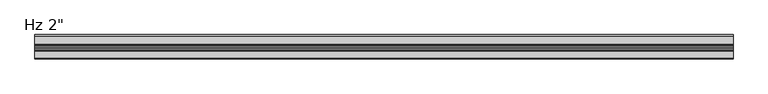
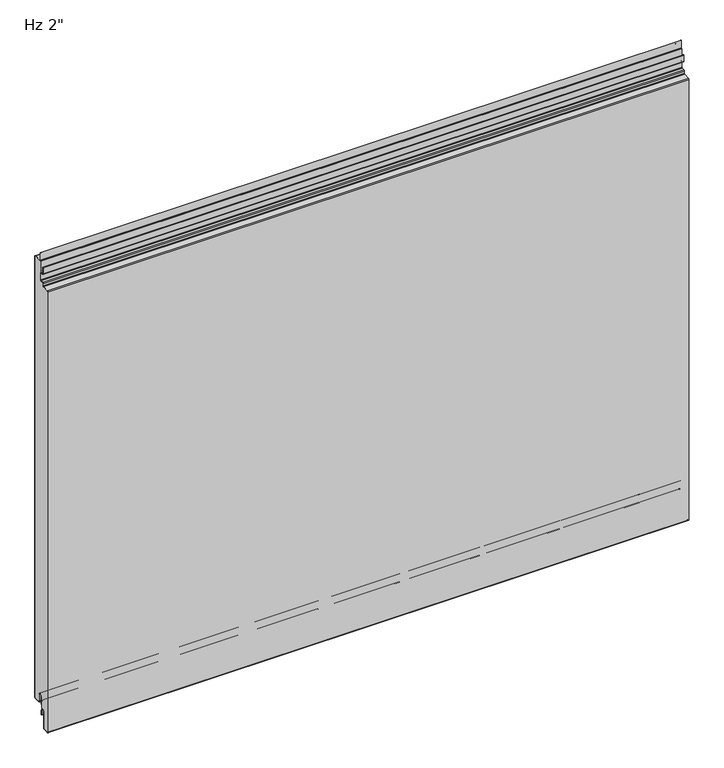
"""IFC4 building model written with IfcOpenShell, lengths in millimetres: plate geometry."""

import ifcopenshell
import ifcopenshell.guid

model = None  # the IFC model being written
_history = None  # IfcOwnerHistory: only IFC2X3 demands one
_inside = {}  # id of a spatial element -> (the spatial element, [elements in it])
_under = {}  # id of a project, library or spatial element -> (it, [spatial elements below it])
_declared = {}  # id of a project -> (the project, [libraries it declares])
_typed = {}  # id of a type object -> (the type object, [elements of that type])
_made_of = {}  # id of a material, layer set ... -> (it, [elements and type objects made of it])


def new_model(schema):
    """Start an empty IFC model of exactly this schema.

    Asked for "IFC4X3", IfcOpenShell would pick the latest addendum, in which some entities
    have other attributes; the version numbers below select the first issue.
    IFC2X3 requires an IfcOwnerHistory on every rooted entity: one is made here for all.
    """
    global model, _history
    if schema == "IFC4X3":
        model = ifcopenshell.file(schema_version=(4, 3, 0, 0))
    else:
        model = ifcopenshell.file(schema=schema)
    _inside.clear()
    _under.clear()
    _declared.clear()
    _typed.clear()
    _made_of.clear()
    _history = None
    if model.schema == "IFC2X3":
        org = make("IfcOrganization", Name="unknown")
        user = make(
            "IfcPersonAndOrganization",
            ThePerson=make("IfcPerson", FamilyName="unknown"),
            TheOrganization=org,
        )
        app = make(
            "IfcApplication",
            ApplicationDeveloper=org,
            Version="unknown",
            ApplicationFullName="unknown",
            ApplicationIdentifier="unknown",
        )
        _history = make(
            "IfcOwnerHistory",
            OwningUser=user,
            OwningApplication=app,
            ChangeAction="ADDED",
            CreationDate=0,
        )
    return model


def make(cls, **values):
    """One entity of the class cls with the attributes given. An attribute that is None is left unset."""
    return model.create_entity(
        cls, **{name: value for name, value in values.items() if value is not None}
    )


def rooted(cls, **values):
    """An entity with a GlobalId (a new one), such as an element, a storey or a relation."""
    return make(cls, GlobalId=ifcopenshell.guid.new(), OwnerHistory=_history, **values)


def si_unit(unit_type, name, prefix=None):
    """IfcSIUnit, for example si_unit("LENGTHUNIT", "METRE", prefix="MILLI")."""
    return make("IfcSIUnit", UnitType=unit_type, Prefix=prefix, Name=name)


def assignment(units):
    """IfcUnitAssignment: the units of a project."""
    return None if units is None else make("IfcUnitAssignment", Units=units)


def point(xyz):
    """IfcCartesianPoint."""
    return None if xyz is None else make("IfcCartesianPoint", Coordinates=xyz)


def direction(xyz):
    """IfcDirection."""
    return None if xyz is None else make("IfcDirection", DirectionRatios=xyz)


def frame(location, z_axis=None, x_axis=None):
    """IfcAxis2Placement3D, a coordinate frame: its origin and axes. An axis left out is left unset."""
    return make(
        "IfcAxis2Placement3D",
        Location=point(location),
        Axis=direction(z_axis),
        RefDirection=direction(x_axis),
    )


def frame_2d(location, x_axis=None):
    """IfcAxis2Placement2D, a coordinate frame in the plane: its origin and x axis."""
    return make(
        "IfcAxis2Placement2D", Location=point(location), RefDirection=direction(x_axis)
    )


def origin():
    """The frame at (0, 0, 0) with its axes left unset."""
    return frame((0.0, 0.0, 0.0))


def place(relative_to, where):
    """IfcLocalPlacement: puts the frame where relative to a parent placement (None: the world)."""
    return make(
        "IfcLocalPlacement", PlacementRelTo=relative_to, RelativePlacement=where
    )


def context(
    kind, dimensions, precision=None, world=None, true_north=None, identifier=None
):
    """IfcGeometricRepresentationContext, for example the 3D "Model" context."""
    return make(
        "IfcGeometricRepresentationContext",
        ContextIdentifier=identifier,
        ContextType=kind,
        CoordinateSpaceDimension=dimensions,
        Precision=precision,
        WorldCoordinateSystem=world,
        TrueNorth=true_north,
    )


def project(units=None, contexts=None):
    """IfcProject with its units and contexts."""
    return rooted(
        "IfcProject",
        Name="project",
        RepresentationContexts=contexts,
        UnitsInContext=assignment(units),
    )


def spatial(cls, under=None, at=None, **own):
    """A site, building, storey or space (cls), placed at a placement, below another one or the project."""
    s = rooted(cls, ObjectPlacement=at, **own)
    if under is not None:
        _under.setdefault(under.id(), (under, []))[1].append(s)
    return s


def polyline(points):
    """IfcPolyline through the points."""
    return make("IfcPolyline", Points=[point(p) for p in points])


def circle_curve(where, radius):
    """IfcCircle in the frame where."""
    return make("IfcCircle", Position=where, Radius=radius)


def ellipse_curve(where, semi_axis1, semi_axis2):
    """IfcEllipse in the frame where."""
    return make(
        "IfcEllipse", Position=where, SemiAxis1=semi_axis1, SemiAxis2=semi_axis2
    )


def trimmed(basis, trim1, trim2, sense, master):
    """IfcTrimmedCurve: the piece of a basis curve between two trims."""
    return make(
        "IfcTrimmedCurve",
        BasisCurve=basis,
        Trim1=trim1,
        Trim2=trim2,
        SenseAgreement=sense,
        MasterRepresentation=master,
    )


def segment(curve, same_sense, transition):
    """IfcCompositeCurveSegment."""
    return make(
        "IfcCompositeCurveSegment",
        Transition=transition,
        SameSense=same_sense,
        ParentCurve=curve,
    )


def composite_curve(segments, self_intersect=None):
    """IfcCompositeCurve: segments joined end to end."""
    return make("IfcCompositeCurve", Segments=segments, SelfIntersect=self_intersect)


def outline(outer, holes=None, kind="AREA"):
    """IfcArbitraryClosedProfileDef: a profile drawn as a closed curve; with holes, ...WithVoids."""
    if holes is None:
        return make("IfcArbitraryClosedProfileDef", ProfileType=kind, OuterCurve=outer)
    return make(
        "IfcArbitraryProfileDefWithVoids",
        ProfileType=kind,
        OuterCurve=outer,
        InnerCurves=holes,
    )


def extrude(swept, where, along, depth):
    """IfcExtrudedAreaSolid: the profile swept, set in the frame where, extruded along a direction by depth."""
    return make(
        "IfcExtrudedAreaSolid",
        SweptArea=swept,
        Position=where,
        ExtrudedDirection=direction(along),
        Depth=depth,
    )


def shape(context_of_items, identifier, shape_type, items):
    """IfcShapeRepresentation: the items that make up one representation, for example the "Body"."""
    return make(
        "IfcShapeRepresentation",
        ContextOfItems=context_of_items,
        RepresentationIdentifier=identifier,
        RepresentationType=shape_type,
        Items=items,
    )


def source(mapping_origin, context_of_items, identifier, shape_type, items):
    """IfcRepresentationMap: a shape defined once, which mapped items show again and again."""
    return make(
        "IfcRepresentationMap",
        MappingOrigin=mapping_origin,
        MappedRepresentation=shape(context_of_items, identifier, shape_type, items),
    )


def transform(
    local_origin,
    x_axis=None,
    y_axis=None,
    z_axis=None,
    scale=None,
    scale2=None,
    scale3=None,
    uniform=True,
):
    """IfcCartesianTransformationOperator3D, or its non-uniform kind. x_axis, y_axis, z_axis: its Axis1, 2, 3."""
    if uniform:
        return make(
            "IfcCartesianTransformationOperator3D",
            Axis1=direction(x_axis),
            Axis2=direction(y_axis),
            LocalOrigin=point(local_origin),
            Scale=scale,
            Axis3=direction(z_axis),
        )
    return make(
        "IfcCartesianTransformationOperator3DnonUniform",
        Axis1=direction(x_axis),
        Axis2=direction(y_axis),
        LocalOrigin=point(local_origin),
        Scale=scale,
        Axis3=direction(z_axis),
        Scale2=scale2,
        Scale3=scale3,
    )


def mapped(mapping_source, mapping_target):
    """IfcMappedItem: shows the shape of a source again, moved by a transform."""
    return make(
        "IfcMappedItem", MappingSource=mapping_source, MappingTarget=mapping_target
    )


def made_of(thing, what):
    """Note that an element or type object is made of a material, layer set ...; save() writes the relation."""
    if what is not None:
        _made_of.setdefault(what.id(), (what, []))[1].append(thing)
    return thing


def element(
    cls,
    number,
    at=None,
    inside=None,
    cuts=None,
    type_object=None,
    material=None,
    context=None,
    identifier="Body",
    shape_type=None,
    held_by="IfcProductDefinitionShape",
    body=None,
    shapes=None,
    **own,
):
    """One element of the class cls, such as IfcWall. Its Tag is "e" and its number.

    at: its placement. inside: the storey or other place that contains it. cuts: it is an
    opening in that element (IfcRelVoidsElement). A single representation is given by context,
    identifier, shape_type and body (its items); several are given by shapes. held_by: the class
    of the entity that holds the representations. save() writes the other relations.
    """
    e = rooted(cls, Tag="e%d" % number, ObjectPlacement=at, **own)
    if body is not None:
        shapes = [shape(context, identifier, shape_type, body)]
    if shapes is not None:
        e.Representation = make(held_by, Representations=shapes)
    if inside is not None:
        _inside.setdefault(inside.id(), (inside, []))[1].append(e)
    if cuts is not None:
        rooted(
            "IfcRelVoidsElement", RelatingBuildingElement=cuts, RelatedOpeningElement=e
        )
    if type_object is not None:
        _typed.setdefault(type_object.id(), (type_object, []))[1].append(e)
    return made_of(e, material)


def aggregate(whole, parts):
    """IfcRelAggregates: a whole, such as a stair, and the parts it consists of."""
    return rooted("IfcRelAggregates", RelatingObject=whole, RelatedObjects=parts)


def save(model, path):
    """Write the relations noted so far, then the file.

    IfcRelAggregates (storeys below a building ...), IfcRelContainedInSpatialStructure (elements
    in a storey), IfcRelDefinesByType, IfcRelAssociatesMaterial and IfcRelDeclares: one each for
    every whole, place, type object, material and project.
    """
    for whole, parts in _under.values():
        aggregate(whole, parts)
    for where, things in _inside.values():
        rooted(
            "IfcRelContainedInSpatialStructure",
            RelatedElements=things,
            RelatingStructure=where,
        )
    for kind, things in _typed.values():
        rooted("IfcRelDefinesByType", RelatedObjects=things, RelatingType=kind)
    for what, things in _made_of.values():
        rooted("IfcRelAssociatesMaterial", RelatedObjects=things, RelatingMaterial=what)
    for by, libraries in _declared.values():
        rooted("IfcRelDeclares", RelatingContext=by, RelatedDefinitions=libraries)
    model.write(path)


def plane_surface(at):
    """IfcPlane: the flat surface through the origin of the frame at, square to its z axis."""
    return make("IfcPlane", Position=at)


def cylinder_surface(at, radius):
    """IfcCylindricalSurface: all points at the distance radius from the z axis of the frame at."""
    return make("IfcCylindricalSurface", Position=at, Radius=radius)


def revolved_surface(curve, axis_point, axis_direction):
    """IfcSurfaceOfRevolution: the curve turned about the line through axis_point along axis_direction."""
    return make(
        "IfcSurfaceOfRevolution",
        SweptCurve=make("IfcArbitraryOpenProfileDef", ProfileType="CURVE", Curve=curve),
        AxisPosition=make("IfcAxis1Placement", Location=point(axis_point), Axis=direction(axis_direction)),
    )


def extruded_surface(curve, direction_of_extrusion, depth):
    """IfcSurfaceOfLinearExtrusion: the curve pushed along a direction by depth."""
    return make(
        "IfcSurfaceOfLinearExtrusion",
        SweptCurve=make("IfcArbitraryOpenProfileDef", ProfileType="CURVE", Curve=curve),
        ExtrudedDirection=direction(direction_of_extrusion),
        Depth=depth,
    )


def advanced_brep(points, edges, surfaces, faces):
    """IfcAdvancedBrep: a solid bounded by faces that lie on surfaces and meet in shared edges.

    An edge is (start, end): straight between two places in points (the first is 0);
    or (start, end, curve); or (start, end, curve, False) where it runs against its curve.
    A face is (place in surfaces, loops), or (place, loops, False) where it looks against
    its surface's normal. A loop lists edges by number (the first is 1), with a minus sign
    where the edge is run from its end to its start. The first loop is the outer one.
    """
    corners = [point(p) for p in points]
    vertices = [make("IfcVertexPoint", VertexGeometry=c) for c in corners]
    made = []
    for start, end, *more in edges:
        made.append(
            make(
                "IfcEdgeCurve",
                EdgeStart=vertices[start],
                EdgeEnd=vertices[end],
                EdgeGeometry=more[0] if more else make("IfcPolyline", Points=[corners[start], corners[end]]),
                SameSense=more[1] if len(more) > 1 else True,
            )
        )
    hull = []
    for where, loops, *sense in faces:
        bounds = []
        for j, loop in enumerate(loops):
            ring = [make("IfcOrientedEdge", EdgeElement=made[abs(k) - 1], Orientation=k > 0) for k in loop]
            bounds.append(
                make(
                    "IfcFaceOuterBound" if j == 0 else "IfcFaceBound",
                    Bound=make("IfcEdgeLoop", EdgeList=ring),
                    Orientation=True,
                )
            )
        hull.append(make("IfcAdvancedFace", Bounds=bounds, FaceSurface=surfaces[where], SameSense=sense[0] if sense else True))
    return make("IfcAdvancedBrep", Outer=make("IfcClosedShell", CfsFaces=hull))


def plate_dd8bc8b6(model_context):
    return source(origin(), model_context, "Body", "SolidModel", [
        extrude(outline(composite_curve([segment(polyline([(-22.8125, 1021.7620957), (-22.8125, 1065.00625), (-2.38125, 1065.00625)]), True, "CONTINUOUS"), segment(trimmed(circle_curve(frame_2d((-2.38125, 1063.625)), 1.38125), [point((-2.38125, 1065.00625))], [point((-1.0, 1063.625))], False, "CARTESIAN"), True, "CONTINUOUS"), segment(polyline([(-1.0, 1063.625), (-1.0, 3.175)]), True, "CONTINUOUS"), segment(trimmed(circle_curve(frame_2d((-2.38125, 3.175)), 1.38125), [point((-1.0, 3.175))], [point((-2.38125, 1.79375))], False, "CARTESIAN"), True, "CONTINUOUS"), segment(polyline([(-2.38125, 1.79375), (-15.08125, 1.79375)]), True, "CONTINUOUS"), segment(trimmed(circle_curve(frame_2d((-15.08125, 3.175)), 1.38125), [point((-15.08125, 1.79375))], [point((-16.4625, 3.175))], False, "CARTESIAN"), True, "CONTINUOUS"), segment(polyline([(-16.4625, 3.175), (-16.4625, 19.05)]), True, "CONTINUOUS"), segment(trimmed(circle_curve(frame_2d((-21.43125, 19.05)), 4.96875), [point((-16.4625, 19.05))], [point((-26.4, 19.05))], True, "CARTESIAN"), True, "CONTINUOUS"), segment(polyline([(-26.4, 19.05), (-26.4, -6.9375), (-30.95625, -6.9375)]), True, "CONTINUOUS"), segment(trimmed(circle_curve(frame_2d((-30.95625, -11.90625)), 4.96875), [point((-30.95625, -6.9375))], [point((-35.925, -11.90625))], True, "CARTESIAN"), True, "CONTINUOUS"), segment(polyline([(-35.925, -11.90625), (-35.925, -50.0895546)]), True, "CONTINUOUS"), segment(trimmed(circle_curve(frame_2d((-37.30625, -50.0895546)), 1.38125), [point((-35.925, -50.0895546))], [point((-37.233961, -51.4689117))], False, "CARTESIAN"), True, "CONTINUOUS"), segment(polyline([(-37.233961, -51.4689117), (-48.346461, -52.0512931)]), True, "CONTINUOUS"), segment(trimmed(circle_curve(frame_2d((-48.41875, -50.6719361)), 1.38125), [point((-48.346461, -52.0512931))], [point((-49.8, -50.6719361))], False, "CARTESIAN"), True, "CONTINUOUS"), segment(polyline([(-49.8, -50.6719361), (-49.8, 1008.1697607)]), True, "CONTINUOUS"), segment(trimmed(circle_curve(frame_2d((-48.41875, 1008.1697607)), 1.38125), [point((-49.8, 1008.1697607))], [point((-48.491039, 1009.5491177))], False, "CARTESIAN"), True, "CONTINUOUS"), segment(polyline([(-48.491039, 1009.5491177), (-34.7895807, 1010.2671807)]), True, "CONTINUOUS"), segment(trimmed(circle_curve(frame_2d((-34.925, 1012.8511347)), 2.5875), [point((-34.7895807, 1010.2671807))], [point((-32.3375, 1012.8511347))], True, "CARTESIAN"), True, "CONTINUOUS"), segment(polyline([(-32.3375, 1012.8511347), (-32.3375, 1017.4967085)]), True, "CONTINUOUS"), segment(trimmed(circle_curve(frame_2d((-30.95625, 1017.4967085)), 1.38125), [point((-32.3375, 1017.4967085))], [point((-31.028539, 1018.8760655))], False, "CARTESIAN"), True, "CONTINUOUS"), segment(polyline([(-31.028539, 1018.8760655), (-25.2645807, 1019.1781418)]), True, "CONTINUOUS"), segment(trimmed(circle_curve(frame_2d((-25.4, 1021.7620957)), 2.5875), [point((-25.2645807, 1019.1781418))], [point((-22.8125, 1021.7620957))], True, "CARTESIAN"), True, "CONTINUOUS")], self_intersect=False)), frame((-730.0, 0.0, 0.0), z_axis=(1.0, 0.0, 0.0), x_axis=(0.0, 1.0, 0.0)), (0.0, 0.0, 1.0), 1460.0),
        extrude(outline(composite_curve([segment(polyline([(-25.4, 0.79375), (-26.4, 0.79375), (-26.4, 19.05)]), True, "CONTINUOUS"), segment(trimmed(circle_curve(frame_2d((-21.43125, 19.05)), 4.96875), [point((-26.4, 19.05))], [point((-16.4625, 19.05))], False, "CARTESIAN"), True, "CONTINUOUS"), segment(polyline([(-16.4625, 19.05), (-16.4625, 3.175)]), True, "CONTINUOUS"), segment(trimmed(circle_curve(frame_2d((-15.08125, 3.175)), 1.38125), [point((-16.4625, 3.175))], [point((-15.08125, 1.79375))], True, "CARTESIAN"), True, "CONTINUOUS"), segment(polyline([(-15.08125, 1.79375), (-2.38125, 1.79375)]), True, "CONTINUOUS"), segment(trimmed(circle_curve(frame_2d((-2.38125, 3.175)), 1.38125), [point((-2.38125, 1.79375))], [point((-1.0, 3.175))], True, "CARTESIAN"), True, "CONTINUOUS"), segment(polyline([(-1.0, 3.175), (-1.0, 1063.625)]), True, "CONTINUOUS"), segment(trimmed(circle_curve(frame_2d((-2.38125, 1063.625)), 1.38125), [point((-1.0, 1063.625))], [point((-2.38125, 1065.00625))], True, "CARTESIAN"), True, "CONTINUOUS"), segment(polyline([(-2.38125, 1065.00625), (-19.446875, 1065.00625)]), True, "CONTINUOUS"), segment(trimmed(circle_curve(frame_2d((-19.446875, 1067.59375)), 2.5875), [point((-19.446875, 1065.00625))], [point((-22.034375, 1067.59375))], False, "CARTESIAN"), True, "CONTINUOUS"), segment(polyline([(-22.034375, 1067.59375), (-22.034375, 1085.05625), (-21.034375, 1085.05625), (-21.034375, 1067.59375)]), True, "CONTINUOUS"), segment(trimmed(circle_curve(frame_2d((-19.446875, 1067.59375)), 1.5875), [point((-21.034375, 1067.59375))], [point((-19.446875, 1066.00625))], True, "CARTESIAN"), True, "CONTINUOUS"), segment(polyline([(-19.446875, 1066.00625), (-2.38125, 1066.00625)]), True, "CONTINUOUS"), segment(trimmed(circle_curve(frame_2d((-2.38125, 1063.625)), 2.38125), [point((-2.38125, 1066.00625))], [point((0.0, 1063.625))], False, "CARTESIAN"), True, "CONTINUOUS"), segment(polyline([(0.0, 1063.625), (0.0, 3.175)]), True, "CONTINUOUS"), segment(trimmed(circle_curve(frame_2d((-2.38125, 3.175)), 2.38125), [point((0.0, 3.175))], [point((-2.38125, 0.79375))], False, "CARTESIAN"), True, "CONTINUOUS"), segment(polyline([(-2.38125, 0.79375), (-15.08125, 0.79375)]), True, "CONTINUOUS"), segment(trimmed(circle_curve(frame_2d((-15.08125, 3.175)), 2.38125), [point((-15.08125, 0.79375))], [point((-17.4625, 3.175))], False, "CARTESIAN"), True, "CONTINUOUS"), segment(polyline([(-17.4625, 3.175), (-17.4625, 19.05)]), True, "CONTINUOUS"), segment(trimmed(circle_curve(frame_2d((-21.43125, 19.05)), 3.96875), [point((-17.4625, 19.05))], [point((-25.4, 19.05))], True, "CARTESIAN"), True, "CONTINUOUS"), segment(polyline([(-25.4, 19.05), (-25.4, 0.79375)]), True, "CONTINUOUS")], self_intersect=False)), frame((-730.0, 0.0, 0.0), z_axis=(1.0, 0.0, 0.0), x_axis=(0.0, 1.0, 0.0)), (0.0, 0.0, 1.0), 1460.0),
        advanced_brep(
        [(-730.0, -25.4, -23.2314549), (-730.0, -26.9875, -23.2314549), (-730.0, -26.9875, -11.9205174), (-730.0, -34.925, -11.9205174), (-730.0, -34.925, -50.1038221), (-730.0, -37.181625, -52.4818086), (-730.0, -48.294125, -53.0641901), (-730.0, -50.8, -50.6862035), (-730.0, -50.8, 1008.1697607), (-730.0, -48.543375, 1010.5477473), (-730.0, -34.8419167, 1011.2658103), (-730.0, -33.3375, 1012.8511347), (-730.0, -33.3375, 1017.4824411), (-730.0, -31.080875, 1019.8604276), (-730.0, -25.3169167, 1020.1625039), (-730.0, -23.8125, 1021.7478283), (-730.0, -23.8125, 1036.6232326), (-730.0, -25.4, 1038.2107326), (-730.0, -29.5671875, 1038.2107326), (-730.0, -31.9484375, 1040.5919826), (-730.0, -31.9484375, 1055.0836032), (-730.0, -30.1546875, 1055.0836032), (-730.0, -30.1546875, 1045.3544826), (-730.0, -30.9484375, 1045.3544826), (-730.0, -30.9484375, 1040.5919826), (-730.0, -29.5671875, 1039.2107326), (-730.0, -25.4, 1039.2107326), (-730.0, -22.8125, 1036.6232326), (-730.0, -22.8125, 1021.7478283), (-730.0, -25.2645807, 1019.1638744), (-730.0, -31.028539, 1018.8617981), (-730.0, -32.3375, 1017.4824411), (-730.0, -32.3375, 1012.8511347), (-730.0, -34.7895807, 1010.2671807), (-730.0, -48.491039, 1009.5491177), (-730.0, -49.8, 1008.1697607), (-730.0, -49.8, -50.6862035), (-730.0, -48.346461, -52.0655606), (-730.0, -37.233961, -51.4831791), (-730.0, -35.925, -50.1038221), (-730.0, -35.925, -11.9205174), (-730.0, -25.9875, -11.9205174), (-730.0, -26.19375, -13.5080174), (-730.0, -25.4, -13.5080174), (730.0, -25.4, -23.2314549), (730.0, -25.4, -13.5080174), (730.0, -26.19375, -13.5080174), (730.0, -25.9875, -11.9205174), (730.0, -35.925, -11.9205174), (730.0, -35.925, -50.1038221), (730.0, -37.233961, -51.4831791), (730.0, -48.346461, -52.0655606), (730.0, -49.8, -50.6862035), (730.0, -49.8, 1008.1697607), (730.0, -48.491039, 1009.5491177), (730.0, -34.7895807, 1010.2671807), (730.0, -32.3375, 1012.8511347), (730.0, -32.3375, 1017.4824411), (730.0, -31.028539, 1018.8617981), (730.0, -25.2645807, 1019.1638744), (730.0, -22.8125, 1021.7478283), (730.0, -22.8125, 1036.6232326), (730.0, -25.4, 1039.2107326), (730.0, -29.5671875, 1039.2107326), (730.0, -30.9484375, 1040.5919826), (730.0, -30.9484375, 1045.3544826), (730.0, -30.1546875, 1045.3544826), (730.0, -30.1546875, 1055.0836032), (730.0, -31.9484375, 1055.0836032), (730.0, -31.9484375, 1040.5919826), (730.0, -29.5671875, 1038.2107326), (730.0, -25.4, 1038.2107326), (730.0, -23.8125, 1036.6232326), (730.0, -23.8125, 1021.7478283), (730.0, -25.3169167, 1020.1625039), (730.0, -31.080875, 1019.8604276), (730.0, -33.3375, 1017.4824411), (730.0, -33.3375, 1012.8511347), (730.0, -34.8419167, 1011.2658103), (730.0, -48.543375, 1010.5477473), (730.0, -50.8, 1008.1697607), (730.0, -50.8, -50.6862035), (730.0, -48.294125, -53.0641901), (730.0, -37.181625, -52.4818086), (730.0, -34.925, -50.1038221), (730.0, -34.925, -11.9205174), (730.0, -26.9875, -11.9205174), (730.0, -26.9875, -23.2314549)],
        [
            (0, 1, circle_curve(frame((-730.0, -26.19375, -23.2314549), z_axis=(-1.0, 0.0, 0.0), x_axis=(0.0, 0.0, -1.0)), 0.79375)),
            (1, 2),
            (2, 3, circle_curve(frame((-730.0, -30.95625, -11.9205174), z_axis=(1.0, 0.0, 0.0), x_axis=(0.0, 0.0, -1.0)), 3.96875)),
            (3, 4),
            (4, 5, circle_curve(frame((-730.0, -37.30625, -50.1038221), z_axis=(-1.0, 0.0, 0.0), x_axis=(0.0, 0.0, -1.0)), 2.38125)),
            (5, 6),
            (6, 7, circle_curve(frame((-730.0, -48.41875, -50.6862035), z_axis=(-1.0, 0.0, 0.0), x_axis=(0.0, 0.0, -1.0)), 2.38125)),
            (7, 8),
            (8, 9, circle_curve(frame((-730.0, -48.41875, 1008.1697607), z_axis=(-1.0, 0.0, 0.0), x_axis=(0.0, 0.0, -1.0)), 2.38125)),
            (9, 10),
            (10, 11, circle_curve(frame((-730.0, -34.925, 1012.8511347), z_axis=(1.0, 0.0, 0.0), x_axis=(0.0, 0.0, -1.0)), 1.5875)),
            (11, 12),
            (12, 13, circle_curve(frame((-730.0, -30.95625, 1017.4824411), z_axis=(-1.0, 0.0, 0.0), x_axis=(0.0, 0.0, -1.0)), 2.38125)),
            (13, 14),
            (14, 15, circle_curve(frame((-730.0, -25.4, 1021.7478283), z_axis=(1.0, 0.0, 0.0), x_axis=(0.0, 0.0, -1.0)), 1.5875)),
            (15, 16),
            (16, 17, circle_curve(frame((-730.0, -25.4, 1036.6232326), z_axis=(1.0, 0.0, 0.0), x_axis=(0.0, 0.0, -1.0)), 1.5875)),
            (17, 18),
            (18, 19, circle_curve(frame((-730.0, -29.5671875, 1040.5919826), z_axis=(-1.0, 0.0, 0.0), x_axis=(0.0, 0.0, -1.0)), 2.38125)),
            (19, 20),
            (20, 21, ellipse_curve(frame((-730.0, -31.0515625, 1055.0836032), z_axis=(-1.0, 0.0, 0.0), x_axis=(0.0, 1.0, 0.0)), 0.896875, 0.7852275)),
            (21, 22),
            (22, 23),
            (23, 24),
            (24, 25, circle_curve(frame((-730.0, -29.5671875, 1040.5919826), z_axis=(1.0, 0.0, 0.0), x_axis=(0.0, 0.0, -1.0)), 1.38125)),
            (25, 26),
            (26, 27, circle_curve(frame((-730.0, -25.4, 1036.6232326), z_axis=(-1.0, 0.0, 0.0), x_axis=(0.0, 0.0, -1.0)), 2.5875)),
            (27, 28),
            (28, 29, circle_curve(frame((-730.0, -25.4, 1021.7478283), z_axis=(-1.0, 0.0, 0.0), x_axis=(0.0, 0.0, -1.0)), 2.5875)),
            (29, 30),
            (30, 31, circle_curve(frame((-730.0, -30.95625, 1017.4824411), z_axis=(1.0, 0.0, 0.0), x_axis=(0.0, 0.0, -1.0)), 1.38125)),
            (31, 32),
            (32, 33, circle_curve(frame((-730.0, -34.925, 1012.8511347), z_axis=(-1.0, 0.0, 0.0), x_axis=(0.0, 0.0, -1.0)), 2.5875)),
            (33, 34),
            (34, 35, circle_curve(frame((-730.0, -48.41875, 1008.1697607), z_axis=(1.0, 0.0, 0.0), x_axis=(0.0, 0.0, -1.0)), 1.38125)),
            (35, 36),
            (36, 37, circle_curve(frame((-730.0, -48.41875, -50.6862035), z_axis=(1.0, 0.0, 0.0), x_axis=(0.0, 0.0, -1.0)), 1.38125)),
            (37, 38),
            (38, 39, circle_curve(frame((-730.0, -37.30625, -50.1038221), z_axis=(1.0, 0.0, 0.0), x_axis=(0.0, 0.0, -1.0)), 1.38125)),
            (39, 40),
            (40, 41, circle_curve(frame((-730.0, -30.95625, -11.9205174), z_axis=(-1.0, 0.0, 0.0), x_axis=(0.0, 0.0, -1.0)), 4.96875)),
            (41, 42),
            (42, 43),
            (43, 0),
            (44, 45),
            (45, 46),
            (46, 47),
            (47, 48, circle_curve(frame((730.0, -30.95625, -11.9205174), z_axis=(1.0, 0.0, 0.0), x_axis=(0.0, 0.0, -1.0)), 4.96875)),
            (48, 49),
            (49, 50, circle_curve(frame((730.0, -37.30625, -50.1038221), z_axis=(-1.0, 0.0, 0.0), x_axis=(0.0, 0.0, -1.0)), 1.38125)),
            (50, 51),
            (51, 52, circle_curve(frame((730.0, -48.41875, -50.6862035), z_axis=(-1.0, 0.0, 0.0), x_axis=(0.0, 0.0, -1.0)), 1.38125)),
            (52, 53),
            (53, 54, circle_curve(frame((730.0, -48.41875, 1008.1697607), z_axis=(-1.0, 0.0, 0.0), x_axis=(0.0, 0.0, -1.0)), 1.38125)),
            (54, 55),
            (55, 56, circle_curve(frame((730.0, -34.925, 1012.8511347), z_axis=(1.0, 0.0, 0.0), x_axis=(0.0, 0.0, -1.0)), 2.5875)),
            (56, 57),
            (57, 58, circle_curve(frame((730.0, -30.95625, 1017.4824411), z_axis=(-1.0, 0.0, 0.0), x_axis=(0.0, 0.0, -1.0)), 1.38125)),
            (58, 59),
            (59, 60, circle_curve(frame((730.0, -25.4, 1021.7478283), z_axis=(1.0, 0.0, 0.0), x_axis=(0.0, 0.0, -1.0)), 2.5875)),
            (60, 61),
            (61, 62, circle_curve(frame((730.0, -25.4, 1036.6232326), z_axis=(1.0, 0.0, 0.0), x_axis=(0.0, 0.0, -1.0)), 2.5875)),
            (62, 63),
            (63, 64, circle_curve(frame((730.0, -29.5671875, 1040.5919826), z_axis=(-1.0, 0.0, 0.0), x_axis=(0.0, 0.0, -1.0)), 1.38125)),
            (64, 65),
            (65, 66),
            (66, 67),
            (67, 68, ellipse_curve(frame((730.0, -31.0515625, 1055.0836032), z_axis=(1.0, 0.0, 0.0), x_axis=(0.0, 1.0, 0.0)), 0.896875, 0.7852275)),
            (68, 69),
            (69, 70, circle_curve(frame((730.0, -29.5671875, 1040.5919826), z_axis=(1.0, 0.0, 0.0), x_axis=(0.0, 0.0, -1.0)), 2.38125)),
            (70, 71),
            (71, 72, circle_curve(frame((730.0, -25.4, 1036.6232326), z_axis=(-1.0, 0.0, 0.0), x_axis=(0.0, 0.0, -1.0)), 1.5875)),
            (72, 73),
            (73, 74, circle_curve(frame((730.0, -25.4, 1021.7478283), z_axis=(-1.0, 0.0, 0.0), x_axis=(0.0, 0.0, -1.0)), 1.5875)),
            (74, 75),
            (75, 76, circle_curve(frame((730.0, -30.95625, 1017.4824411), z_axis=(1.0, 0.0, 0.0), x_axis=(0.0, 0.0, -1.0)), 2.38125)),
            (76, 77),
            (77, 78, circle_curve(frame((730.0, -34.925, 1012.8511347), z_axis=(-1.0, 0.0, 0.0), x_axis=(0.0, 0.0, -1.0)), 1.5875)),
            (78, 79),
            (79, 80, circle_curve(frame((730.0, -48.41875, 1008.1697607), z_axis=(1.0, 0.0, 0.0), x_axis=(0.0, 0.0, -1.0)), 2.38125)),
            (80, 81),
            (81, 82, circle_curve(frame((730.0, -48.41875, -50.6862035), z_axis=(1.0, 0.0, 0.0), x_axis=(0.0, 0.0, -1.0)), 2.38125)),
            (82, 83),
            (83, 84, circle_curve(frame((730.0, -37.30625, -50.1038221), z_axis=(1.0, 0.0, 0.0), x_axis=(0.0, 0.0, -1.0)), 2.38125)),
            (84, 85),
            (85, 86, circle_curve(frame((730.0, -30.95625, -11.9205174), z_axis=(-1.0, 0.0, 0.0), x_axis=(0.0, 0.0, -1.0)), 3.96875)),
            (86, 87),
            (87, 44, circle_curve(frame((730.0, -26.19375, -23.2314549), z_axis=(1.0, 0.0, 0.0), x_axis=(0.0, 0.0, -1.0)), 0.79375)),
            (36, 52),
            (51, 37),
            (50, 38),
            (49, 39),
            (48, 40),
            (47, 41),
            (42, 46),
            (45, 43),
            (22, 66),
            (65, 23),
            (21, 67),
            (20, 68),
            (34, 54),
            (53, 35),
            (32, 56),
            (55, 33),
            (30, 58),
            (57, 31),
            (28, 60),
            (59, 29),
            (24, 64),
            (63, 25),
            (26, 62),
            (61, 27),
            (19, 69),
            (17, 71),
            (70, 18),
            (15, 73),
            (72, 16),
            (13, 75),
            (74, 14),
            (11, 77),
            (76, 12),
            (9, 79),
            (78, 10),
            (7, 81),
            (80, 8),
            (5, 83),
            (82, 6),
            (3, 85),
            (84, 4),
            (1, 87),
            (86, 2),
            (44, 0),
        ],
        [
            plane_surface(frame((-730.0, -50.8, 533.4), z_axis=(-1.0, 0.0, 0.0), x_axis=(0.0, -1.0, 0.0))),
            plane_surface(frame((730.0, -50.8, 533.4), z_axis=(1.0, 0.0, 0.0), x_axis=(0.0, -1.0, 0.0))),
            revolved_surface(polyline([(730.0, -48.41875, -52.0674535), (-730.0, -48.41875, -52.0674535)]), (-730.0, -48.41875, -50.6862035), (1.0, 0.0, 0.0)),
            plane_surface(frame((-730.0, -37.233961, -51.4831791), z_axis=(0.0, -0.05233595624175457, 0.9986295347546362), x_axis=(1.0, 0.0, 0.0))),
            revolved_surface(polyline([(730.0, -37.30625, -51.485072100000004), (-730.0, -37.30625, -51.485072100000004)]), (-730.0, -37.30625, -50.1038221), (1.0, 0.0, 0.0)),
            plane_surface(frame((-730.0, -35.925, -11.9205174), z_axis=(0.0, -1.0, 0.0), x_axis=(1.0, 0.0, 0.0))),
            cylinder_surface(frame((-730.0, -30.95625, -11.9205174), z_axis=(-1.0, 0.0, 0.0), x_axis=(0.0, 0.0, -1.0)), 4.96875),
            plane_surface(frame((-730.0, -25.4, -13.5080174), z_axis=(0.0, 0.0, 1.0), x_axis=(1.0, 0.0, 0.0))),
            plane_surface(frame((-730.0, -26.19375, -13.5080174), z_axis=(0.0, 0.9916655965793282, -0.1288384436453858), x_axis=(1.0, 0.0, 0.0))),
            plane_surface(frame((-730.0, -30.9484375, 1045.3544826), z_axis=(0.0, 0.0, -1.0), x_axis=(1.0, 0.0, 0.0))),
            plane_surface(frame((-730.0, -30.1546875, 1045.3544826), z_axis=(0.0, 1.0, 0.0), x_axis=(1.0, 0.0, 0.0))),
            extruded_surface(trimmed(ellipse_curve(frame((-730.0, -31.0515625, 1055.0836032), z_axis=(1.0, 0.0, 0.0), x_axis=(0.0, 1.0, 0.0)), 0.896875, 0.7852275), [point((-730.0, -30.1546875, 1055.0836032))], [point((-730.0, -31.9484375, 1055.0836032))], True, "CARTESIAN"), (1460.0, 0.0, 0.0), 1460.0),
            revolved_surface(polyline([(730.0, -48.41875, 1006.7885107), (-730.0, -48.41875, 1006.7885107)]), (-730.0, -48.41875, 1008.1697607), (1.0, 0.0, 0.0)),
            cylinder_surface(frame((-730.0, -34.925, 1012.8511347), z_axis=(-1.0, 0.0, 0.0), x_axis=(0.0, 0.0, -1.0)), 2.5875),
            plane_surface(frame((-730.0, -48.491039, 1009.5491177), z_axis=(0.0, 0.05233595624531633, -0.9986295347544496), x_axis=(1.0, 0.0, 0.0))),
            plane_surface(frame((-730.0, -49.8, -50.6862035), z_axis=(0.0, 1.0, 0.0), x_axis=(1.0, 0.0, 0.0))),
            revolved_surface(polyline([(730.0, -30.95625, 1016.1011910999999), (-730.0, -30.95625, 1016.1011910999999)]), (-730.0, -30.95625, 1017.4824411), (1.0, 0.0, 0.0)),
            cylinder_surface(frame((-730.0, -25.4, 1021.7478283), z_axis=(-1.0, 0.0, 0.0), x_axis=(0.0, 0.0, -1.0)), 2.5875),
            plane_surface(frame((-730.0, -31.028539, 1018.8617981), z_axis=(0.0, 0.052335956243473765, -0.9986295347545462), x_axis=(1.0, 0.0, 0.0))),
            plane_surface(frame((-730.0, -32.3375, 1012.8511347), z_axis=(0.0, 1.0, 0.0), x_axis=(1.0, 0.0, 0.0))),
            revolved_surface(polyline([(730.0, -29.5671875, 1039.2107326), (-730.0, -29.5671875, 1039.2107326)]), (-730.0, -29.5671875, 1040.5919826), (1.0, 0.0, 0.0)),
            cylinder_surface(frame((-730.0, -25.4, 1036.6232326), z_axis=(-1.0, 0.0, 0.0), x_axis=(0.0, 0.0, -1.0)), 2.5875),
            plane_surface(frame((-730.0, -25.4, 1039.2107326), z_axis=(0.0, 0.0, 1.0), x_axis=(1.0, 0.0, 0.0))),
            plane_surface(frame((-730.0, -30.9484375, 1040.5919826), z_axis=(0.0, 1.0, 0.0), x_axis=(1.0, 0.0, 0.0))),
            plane_surface(frame((-730.0, -31.9484375, 1055.0836032), z_axis=(0.0, -1.0, 0.0), x_axis=(1.0, 0.0, 0.0))),
            plane_surface(frame((-730.0, -29.5671875, 1038.2107326), z_axis=(0.0, 0.0, -1.0), x_axis=(1.0, 0.0, 0.0))),
            cylinder_surface(frame((-730.0, -29.5671875, 1040.5919826), z_axis=(-1.0, 0.0, 0.0), x_axis=(0.0, 0.0, -1.0)), 2.38125),
            plane_surface(frame((-730.0, -22.8125, 1021.7478283), z_axis=(0.0, 1.0, 0.0), x_axis=(1.0, 0.0, 0.0))),
            plane_surface(frame((-730.0, -23.8125, 1036.6232326), z_axis=(0.0, -1.0, 0.0), x_axis=(1.0, 0.0, 0.0))),
            plane_surface(frame((-730.0, -25.3169167, 1020.1625039), z_axis=(0.0, -0.05233595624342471, 0.9986295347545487), x_axis=(1.0, 0.0, 0.0))),
            revolved_surface(polyline([(730.0, -25.4, 1020.1603283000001), (-730.0, -25.4, 1020.1603283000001)]), (-730.0, -25.4, 1021.7478283), (1.0, 0.0, 0.0)),
            revolved_surface(polyline([(730.0, -25.4, 1035.0357325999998), (-730.0, -25.4, 1035.0357325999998)]), (-730.0, -25.4, 1036.6232326), (1.0, 0.0, 0.0)),
            plane_surface(frame((-730.0, -33.3375, 1017.4824411), z_axis=(0.0, -1.0, 0.0), x_axis=(1.0, 0.0, 0.0))),
            plane_surface(frame((-730.0, -34.8419167, 1011.2658103), z_axis=(0.0, -0.05233595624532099, 0.9986295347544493), x_axis=(1.0, 0.0, 0.0))),
            revolved_surface(polyline([(730.0, -34.925, 1011.2636347), (-730.0, -34.925, 1011.2636347)]), (-730.0, -34.925, 1012.8511347), (1.0, 0.0, 0.0)),
            cylinder_surface(frame((-730.0, -30.95625, 1017.4824411), z_axis=(-1.0, 0.0, 0.0), x_axis=(0.0, 0.0, -1.0)), 2.38125),
            plane_surface(frame((-730.0, -50.8, 1008.1697607), z_axis=(0.0, -1.0, 0.0), x_axis=(1.0, 0.0, 0.0))),
            plane_surface(frame((-730.0, -48.294125, -53.0641901), z_axis=(0.0, 0.05233595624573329, -0.9986295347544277), x_axis=(1.0, 0.0, 0.0))),
            cylinder_surface(frame((-730.0, -48.41875, -50.6862035), z_axis=(-1.0, 0.0, 0.0), x_axis=(0.0, 0.0, -1.0)), 2.38125),
            cylinder_surface(frame((-730.0, -48.41875, 1008.1697607), z_axis=(-1.0, 0.0, 0.0), x_axis=(0.0, 0.0, -1.0)), 2.38125),
            plane_surface(frame((-730.0, -34.925, -50.1038221), z_axis=(0.0, 1.0, 0.0), x_axis=(1.0, 0.0, 0.0))),
            plane_surface(frame((-730.0, -26.9875, -11.9205174), z_axis=(0.0, -1.0, 0.0), x_axis=(1.0, 0.0, 0.0))),
            revolved_surface(polyline([(730.0, -30.95625, -15.8892674), (-730.0, -30.95625, -15.8892674)]), (-730.0, -30.95625, -11.9205174), (1.0, 0.0, 0.0)),
            cylinder_surface(frame((-730.0, -37.30625, -50.1038221), z_axis=(-1.0, 0.0, 0.0), x_axis=(0.0, 0.0, -1.0)), 2.38125),
            plane_surface(frame((-730.0, -25.4, -23.2314549), z_axis=(0.0, 1.0, 0.0), x_axis=(1.0, 0.0, 0.0))),
            cylinder_surface(frame((-730.0, -26.19375, -23.2314549), z_axis=(-1.0, 0.0, 0.0), x_axis=(0.0, 0.0, -1.0)), 0.79375),
        ],
        [
            (0, [[1, 2, 3, 4, 5, 6, 7, 8, 9, 10, 11, 12, 13, 14, 15, 16, 17, 18, 19, 20, 21, 22, 23, 24, 25, 26, 27, 28, 29, 30, 31, 32, 33, 34, 35, 36, 37, 38, 39, 40, 41, 42, 43, 44]]),
            (1, [[45, 46, 47, 48, 49, 50, 51, 52, 53, 54, 55, 56, 57, 58, 59, 60, 61, 62, 63, 64, 65, 66, 67, 68, 69, 70, 71, 72, 73, 74, 75, 76, 77, 78, 79, 80, 81, 82, 83, 84, 85, 86, 87, 88]]),
            (2, [[89, -52, 90, -37]]),
            (3, [[-90, -51, 91, -38]]),
            (4, [[-91, -50, 92, -39]]),
            (5, [[-92, -49, 93, -40]]),
            (6, [[-93, -48, 94, -41]]),
            (7, [[95, -46, 96, -43]]),
            (8, [[-94, -47, -95, -42]]),
            (9, [[97, -66, 98, -23]]),
            (10, [[99, -67, -97, -22]]),
            (11, [[100, -68, -99, -21]]),
            (12, [[101, -54, 102, -35]]),
            (13, [[103, -56, 104, -33]]),
            (14, [[-104, -55, -101, -34]]),
            (15, [[-102, -53, -89, -36]]),
            (16, [[105, -58, 106, -31]]),
            (17, [[107, -60, 108, -29]]),
            (18, [[-108, -59, -105, -30]]),
            (19, [[-106, -57, -103, -32]]),
            (20, [[109, -64, 110, -25]]),
            (21, [[111, -62, 112, -27]]),
            (22, [[-110, -63, -111, -26]]),
            (23, [[-98, -65, -109, -24]]),
            (24, [[113, -69, -100, -20]]),
            (25, [[114, -71, 115, -18]]),
            (26, [[-115, -70, -113, -19]]),
            (27, [[-112, -61, -107, -28]]),
            (28, [[116, -73, 117, -16]]),
            (29, [[118, -75, 119, -14]]),
            (30, [[-119, -74, -116, -15]]),
            (31, [[-117, -72, -114, -17]]),
            (32, [[120, -77, 121, -12]]),
            (33, [[122, -79, 123, -10]]),
            (34, [[-123, -78, -120, -11]]),
            (35, [[-121, -76, -118, -13]]),
            (36, [[124, -81, 125, -8]]),
            (37, [[126, -83, 127, -6]]),
            (38, [[-127, -82, -124, -7]]),
            (39, [[-125, -80, -122, -9]]),
            (40, [[128, -85, 129, -4]]),
            (41, [[130, -87, 131, -2]]),
            (42, [[-131, -86, -128, -3]]),
            (43, [[-129, -84, -126, -5]]),
            (44, [[-96, -45, 132, -44]]),
            (45, [[-132, -88, -130, -1]]),
        ],
    ),
    ])


if __name__ == "__main__":
    model = new_model("IFC4")
    model_context = context("Model", 3, world=origin())
    ifc_project = project(units=[si_unit("LENGTHUNIT", "METRE", prefix="MILLI")], contexts=[model_context])
    site = spatial("IfcSite", under=ifc_project)
    building = spatial("IfcBuilding", under=site)
    placement = place(None, origin())
    plate_shape = plate_dd8bc8b6(model_context)
    element("IfcPlate", 1, ObjectType="KIP-42-DWTR-R19-CP-Hz-F : Hz 2\"", at=placement, inside=building, context=model_context, shape_type="MappedRepresentation", body=[
        mapped(plate_shape, transform((0.0, 0.0, 0.0), x_axis=(1.0, 0.0, 0.0), y_axis=(0.0, 1.0, 0.0), z_axis=(0.0, 0.0, 1.0))),
    ])
    save(model, "model.ifc")
